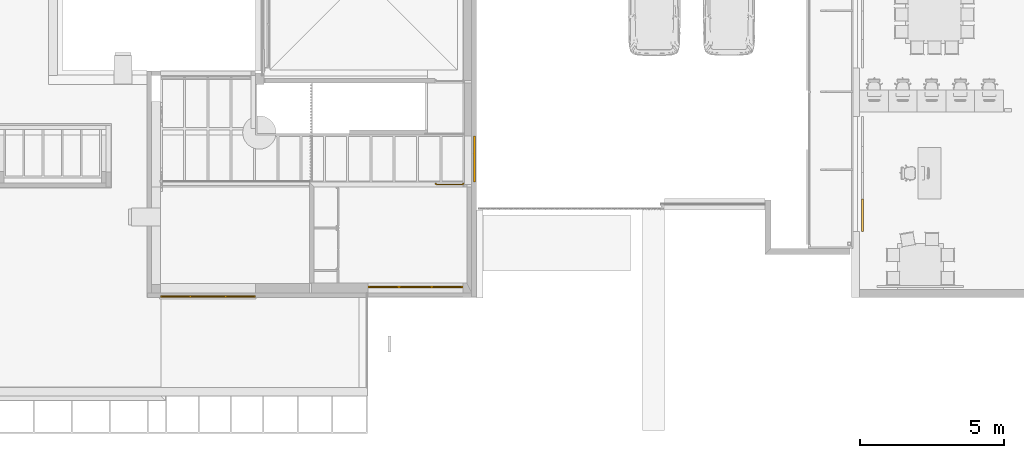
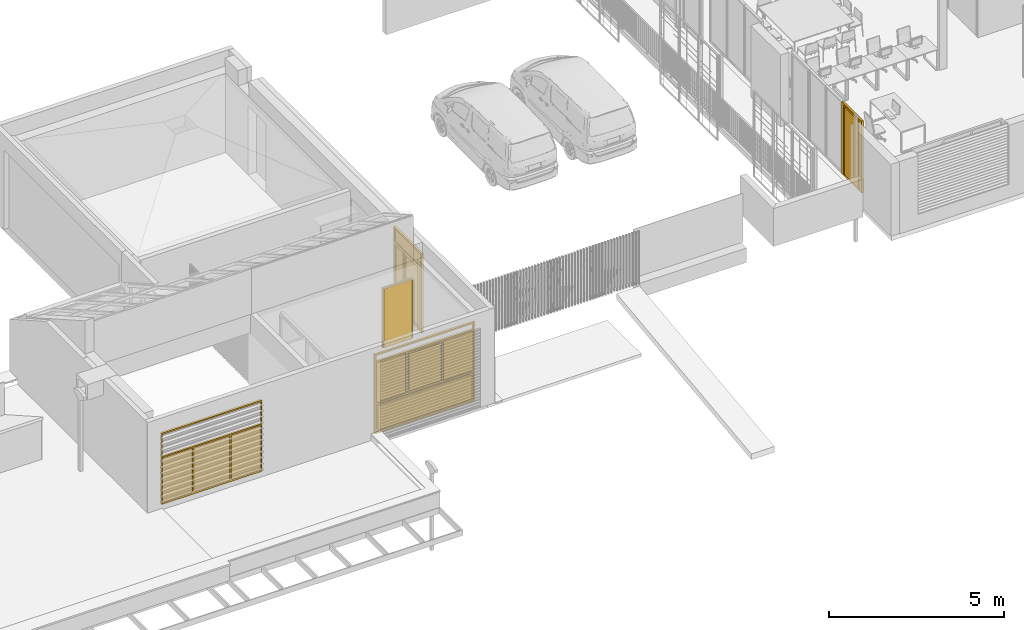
# One storey, part 31 of 51: 4 windows, 1 door.
"""IFC2X3 building model written with IfcOpenShell, lengths in metres."""

from ifc_helpers import new_model, entity, si_unit, converted_unit, derived_unit, direction, frame, origin, place, context, subcontext, project, spatial, faceted_brep, source, transform, mapped, material, type_object, type_shapes, element, save


model = new_model("IFC2X3")

# Units and contexts
model_context = context("Model", 3, precision=1e-05, world=origin(), true_north=direction((6.123031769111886e-17, 1.0)))
body_context = subcontext(model_context, "Body", "Model", "MODEL_VIEW")
ifc_project = project(units=[si_unit("LENGTHUNIT", "METRE"), si_unit("AREAUNIT", "SQUARE_METRE"), si_unit("VOLUMEUNIT", "CUBIC_METRE"), converted_unit("PLANEANGLEUNIT", "DEGREE", entity("IfcRatioMeasure", 0.017453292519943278), si_unit("PLANEANGLEUNIT", "RADIAN"), dimensions=[0, 0, 0, 0, 0, 0, 0]), si_unit("MASSUNIT", "GRAM", prefix="KILO"), derived_unit("MASSDENSITYUNIT", [(si_unit("MASSUNIT", "GRAM", prefix="KILO"), 1), (si_unit("LENGTHUNIT", "METRE"), -3)]), derived_unit("MOMENTOFINERTIAUNIT", [(si_unit("LENGTHUNIT", "METRE"), 4)]), si_unit("TIMEUNIT", "SECOND"), si_unit("FREQUENCYUNIT", "HERTZ"), si_unit("THERMODYNAMICTEMPERATUREUNIT", "DEGREE_CELSIUS"), derived_unit("THERMALTRANSMITTANCEUNIT", [(si_unit("MASSUNIT", "GRAM", prefix="KILO"), 1), (si_unit("THERMODYNAMICTEMPERATUREUNIT", "KELVIN"), -1), (si_unit("TIMEUNIT", "SECOND"), -3)]), derived_unit("THERMALCONDUCTANCEUNIT", [(si_unit("MASSUNIT", "GRAM", prefix="KILO"), 1), (si_unit("LENGTHUNIT", "METRE"), 1), (si_unit("THERMODYNAMICTEMPERATUREUNIT", "KELVIN"), -1), (si_unit("TIMEUNIT", "SECOND"), -3)]), derived_unit("VOLUMETRICFLOWRATEUNIT", [(si_unit("LENGTHUNIT", "METRE"), 3), (si_unit("TIMEUNIT", "SECOND"), -1)]), derived_unit("MASSFLOWRATEUNIT", [(si_unit("MASSUNIT", "GRAM", prefix="KILO"), 1), (si_unit("TIMEUNIT", "SECOND"), -1)]), derived_unit("ROTATIONALFREQUENCYUNIT", [(si_unit("TIMEUNIT", "SECOND"), -1)]), si_unit("ELECTRICCURRENTUNIT", "AMPERE"), si_unit("ELECTRICVOLTAGEUNIT", "VOLT"), si_unit("POWERUNIT", "WATT"), si_unit("FORCEUNIT", "NEWTON", prefix="KILO"), si_unit("ILLUMINANCEUNIT", "LUX"), si_unit("LUMINOUSFLUXUNIT", "LUMEN"), si_unit("LUMINOUSINTENSITYUNIT", "CANDELA"), derived_unit("USERDEFINED", [(si_unit("MASSUNIT", "GRAM", prefix="KILO"), -1), (si_unit("LENGTHUNIT", "METRE"), -2), (si_unit("TIMEUNIT", "SECOND"), 3), (si_unit("LUMINOUSFLUXUNIT", "LUMEN"), 1)]), derived_unit("USERDEFINED", [(si_unit("MASSUNIT", "GRAM", prefix="KILO"), 1), (si_unit("LENGTHUNIT", "METRE"), 3), (si_unit("TIMEUNIT", "SECOND"), -3), (si_unit("ELECTRICCURRENTUNIT", "AMPERE"), -2)]), derived_unit("USERDEFINED", [(si_unit("LENGTHUNIT", "METRE"), 2), (si_unit("TIMEUNIT", "SECOND"), -2)]), derived_unit("SOUNDPOWERUNIT", [(si_unit("MASSUNIT", "GRAM", prefix="KILO"), 1), (si_unit("LENGTHUNIT", "METRE"), 2), (si_unit("TIMEUNIT", "SECOND"), -3)]), derived_unit("SOUNDPRESSUREUNIT", [(si_unit("MASSUNIT", "GRAM", prefix="KILO"), 1), (si_unit("LENGTHUNIT", "METRE"), -1), (si_unit("TIMEUNIT", "SECOND"), -2)]), derived_unit("LINEARVELOCITYUNIT", [(si_unit("LENGTHUNIT", "METRE"), 1), (si_unit("TIMEUNIT", "SECOND"), -1)]), si_unit("PRESSUREUNIT", "PASCAL"), derived_unit("USERDEFINED", [(si_unit("LENGTHUNIT", "METRE"), -2), (si_unit("MASSUNIT", "GRAM", prefix="KILO"), 1), (si_unit("TIMEUNIT", "SECOND"), -2)]), derived_unit("LINEARFORCEUNIT", [(si_unit("MASSUNIT", "GRAM", prefix="KILO"), 1), (si_unit("LENGTHUNIT", "METRE"), 1), (si_unit("TIMEUNIT", "SECOND"), -2), (si_unit("LENGTHUNIT", "METRE"), -1)]), derived_unit("PLANARFORCEUNIT", [(si_unit("MASSUNIT", "GRAM", prefix="KILO"), 1), (si_unit("LENGTHUNIT", "METRE"), 1), (si_unit("TIMEUNIT", "SECOND"), -2), (si_unit("LENGTHUNIT", "METRE"), -2)]), derived_unit("SPECIFICHEATCAPACITYUNIT", [(si_unit("LENGTHUNIT", "METRE"), 2), (si_unit("TIMEUNIT", "SECOND"), -2), (si_unit("THERMODYNAMICTEMPERATUREUNIT", "KELVIN"), -1)]), derived_unit("VAPORPERMEABILITYUNIT", [(si_unit("TIMEUNIT", "SECOND"), 1), (si_unit("LENGTHUNIT", "METRE"), -1)]), derived_unit("DYNAMICVISCOSITYUNIT", [(si_unit("MASSUNIT", "GRAM", prefix="KILO"), 1), (si_unit("LENGTHUNIT", "METRE"), -1), (si_unit("TIMEUNIT", "SECOND"), -1)]), derived_unit("THERMALEXPANSIONCOEFFICIENTUNIT", [(si_unit("THERMODYNAMICTEMPERATUREUNIT", "KELVIN"), -1)])], contexts=[model_context])

# Site, building, storey
site_placement = place(None, origin())
site = spatial("IfcSite", under=ifc_project, at=site_placement, Name="Default", CompositionType="ELEMENT")
building_placement = place(site_placement, origin())
building = spatial("IfcBuilding", under=site, at=building_placement, CompositionType="ELEMENT")
storey_placement = place(building_placement, frame((0.0, 0.0, 3.06)))
storey = spatial("IfcBuildingStorey", under=building, at=storey_placement, Name="ÉTAGE", CompositionType="ELEMENT", Elevation=3.06)

# Windows
ifc_material_1 = material(Name="Transp. - Verre clair (rapide)")
window_style_1 = type_object("IfcWindowStyle", Name="Fen-007", ConstructionType="NOTDEFINED", OperationType="NOTDEFINED", ParameterTakesPrecedence=False, Sizeable=False, material=ifc_material_1)
shared_shape_1 = source(origin(), body_context, "Body", "Brep", [
    faceted_brep([(2.269999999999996, -0.41340000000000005, 1.06), (3.2499999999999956, -0.41340000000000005, 1.06), (3.2499999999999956, -0.34340000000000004, 1.06), (2.269999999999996, -0.34340000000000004, 1.06), (0.0, -0.41340000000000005, 0.0), (3.299999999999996, -0.41340000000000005, 0.0), (3.299999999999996, -0.41340000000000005, 2.76), (0.0, -0.41340000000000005, 2.76), (2.2199999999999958, -0.41340000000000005, 2.46), (2.2199999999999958, -0.41340000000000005, 1.06), (1.079999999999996, -0.41340000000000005, 1.06), (1.079999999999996, -0.41340000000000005, 2.46), (0.049999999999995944, -0.41340000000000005, 1.01), (3.2499999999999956, -0.41340000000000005, 1.01), (3.2499999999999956, -0.41340000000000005, 0.059999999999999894), (0.049999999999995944, -0.41340000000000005, 0.059999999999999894), (0.049999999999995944, -0.41340000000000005, 2.7099999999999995), (3.2499999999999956, -0.41340000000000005, 2.7099999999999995), (3.2499999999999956, -0.41340000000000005, 2.5099999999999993), (0.049999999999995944, -0.41340000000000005, 2.5099999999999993), (1.029999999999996, -0.41340000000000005, 1.06), (0.049999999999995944, -0.41340000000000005, 1.06), (0.049999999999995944, -0.41340000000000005, 2.46), (1.029999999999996, -0.41340000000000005, 2.46), (2.269999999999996, -0.41340000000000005, 2.46), (3.2499999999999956, -0.41340000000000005, 2.46), (3.2499999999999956, -0.34340000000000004, 2.46), (0.0, -0.34340000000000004, 0.0), (0.0, -0.34340000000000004, 2.76), (3.299999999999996, -0.34340000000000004, 2.76), (3.299999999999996, -0.34340000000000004, 0.0), (2.2199999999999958, -0.34340000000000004, 2.46), (1.079999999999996, -0.34340000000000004, 2.46), (1.079999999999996, -0.34340000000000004, 1.06), (2.2199999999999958, -0.34340000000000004, 1.06), (3.2499999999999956, -0.34340000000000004, 0.059999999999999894), (3.2499999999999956, -0.34340000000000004, 1.01), (0.049999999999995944, -0.34340000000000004, 1.01), (0.049999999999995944, -0.34340000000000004, 0.059999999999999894), (0.049999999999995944, -0.34340000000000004, 2.7099999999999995), (0.049999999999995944, -0.34340000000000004, 2.5099999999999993), (3.2499999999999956, -0.34340000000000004, 2.5099999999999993), (3.2499999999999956, -0.34340000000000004, 2.7099999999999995), (0.049999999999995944, -0.34340000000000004, 2.46), (0.049999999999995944, -0.34340000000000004, 1.06), (1.029999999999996, -0.34340000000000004, 1.06), (1.029999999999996, -0.34340000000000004, 2.46), (2.269999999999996, -0.34340000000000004, 2.46), (2.1699999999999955, -0.41340000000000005, 2.41), (2.1699999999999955, -0.41340000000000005, 1.1099999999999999), (1.1299999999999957, -0.41340000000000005, 1.1099999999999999), (1.1299999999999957, -0.41340000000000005, 2.41), (2.1699999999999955, -0.34340000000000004, 2.41), (2.1699999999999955, -0.34340000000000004, 1.1099999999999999), (1.1299999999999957, -0.34340000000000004, 1.1099999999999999), (1.1299999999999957, -0.34340000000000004, 2.41), (1.079999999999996, -0.37840000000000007, 2.46), (1.079999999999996, -0.37840000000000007, 1.06), (2.2199999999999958, -0.37840000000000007, 2.46), (2.2199999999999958, -0.37840000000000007, 1.06), (1.1299999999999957, -0.3834, 1.1099999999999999), (1.1299999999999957, -0.37340000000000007, 1.1099999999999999), (2.1699999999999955, -0.37340000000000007, 1.1099999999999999), (2.1699999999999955, -0.3834, 1.1099999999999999), (1.1299999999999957, -0.3834, 2.41), (1.1299999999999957, -0.37340000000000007, 2.41), (2.1699999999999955, -0.37340000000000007, 2.41), (2.1699999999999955, -0.3834, 2.41), (0.049999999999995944, -0.3834, 1.0601), (0.049999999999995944, -0.37340000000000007, 1.0601), (1.029999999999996, -0.37340000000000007, 1.0601), (1.029999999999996, -0.3834, 1.0601), (0.049999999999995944, -0.3834, 2.46), (0.049999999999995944, -0.37340000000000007, 2.46), (1.029999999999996, -0.37340000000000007, 2.46), (1.029999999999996, -0.3834, 2.46), (2.269999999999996, -0.3834, 1.0601), (2.269999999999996, -0.37340000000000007, 1.0601), (3.2499999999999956, -0.37340000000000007, 1.0601), (3.2499999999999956, -0.3834, 1.0601), (2.269999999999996, -0.3834, 2.46), (2.269999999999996, -0.37340000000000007, 2.46), (3.2499999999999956, -0.37340000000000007, 2.46), (3.2499999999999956, -0.3834, 2.46), (0.049999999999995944, -0.37840000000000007, 2.7099999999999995), (0.049999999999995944, -0.37840000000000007, 2.5099999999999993), (3.2499999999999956, -0.37840000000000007, 2.7099999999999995), (3.2499999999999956, -0.37840000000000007, 2.5099999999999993), (3.1999999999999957, -0.41340000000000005, 0.96), (3.1999999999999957, -0.41340000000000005, 0.11000000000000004), (0.09999999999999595, -0.41340000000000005, 0.11000000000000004), (0.09999999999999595, -0.41340000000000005, 0.96), (3.1999999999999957, -0.34340000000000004, 0.96), (3.1999999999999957, -0.34340000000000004, 0.11000000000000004), (0.09999999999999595, -0.34340000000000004, 0.11), (0.09999999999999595, -0.34340000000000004, 0.96), (0.049999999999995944, -0.37840000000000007, 1.01), (0.049999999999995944, -0.37840000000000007, 0.06000000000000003), (3.2499999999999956, -0.37840000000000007, 1.01), (3.2499999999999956, -0.37840000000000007, 0.06000000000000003), (0.09999999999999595, -0.3834, 0.11), (0.09999999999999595, -0.37340000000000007, 0.11), (3.1999999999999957, -0.37340000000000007, 0.11), (3.1999999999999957, -0.3834, 0.11), (0.09999999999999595, -0.3834, 0.96), (0.09999999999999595, -0.37340000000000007, 0.96), (3.1999999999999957, -0.37340000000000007, 0.96), (3.1999999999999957, -0.3834, 0.96)], [[[0, 1, 2, 3]], [[4, 5, 6, 7], [8, 9, 10, 11], [12, 13, 14, 15], [16, 17, 18, 19], [20, 21, 22, 23], [24, 25, 1, 0]], [[1, 25, 26, 2]], [[27, 28, 29, 30], [31, 32, 33, 34], [35, 36, 37, 38], [39, 40, 41, 42], [43, 44, 45, 46], [47, 3, 2, 26]], [[24, 0, 3, 47]], [[4, 27, 30, 5]], [[5, 30, 29, 6]], [[6, 29, 28, 7]], [[7, 28, 27, 4]], [[31, 34, 9, 8]], [[34, 33, 10, 9]], [[10, 33, 32, 11]], [[8, 11, 32, 31]], [[36, 13, 12, 37]], [[13, 36, 35, 14]], [[14, 35, 38, 15]], [[37, 12, 15, 38]], [[16, 39, 42, 17]], [[42, 41, 18, 17]], [[19, 18, 41, 40]], [[16, 19, 40, 39]], [[44, 21, 20, 45]], [[44, 43, 22, 21]], [[22, 43, 46, 23]], [[45, 20, 23, 46]], [[47, 26, 25, 24]], [[8, 11, 10, 9], [48, 49, 50, 51]], [[8, 31, 32, 11]], [[32, 33, 10, 11]], [[33, 34, 9, 10]], [[9, 34, 31, 8]], [[48, 52, 53, 49]], [[53, 54, 50, 49]], [[54, 55, 51, 50]], [[51, 55, 52, 48]], [[32, 31, 34, 33], [53, 52, 55, 54]], [[10, 11, 56, 57]], [[9, 8, 58, 59]], [[10, 9, 59, 57]], [[11, 8, 58, 56]], [[57, 56, 32, 33]], [[59, 58, 31, 34]], [[57, 59, 34, 33]], [[56, 58, 31, 32]], [[60, 61, 62, 63]], [[64, 65, 61, 60]], [[61, 65, 66, 62]], [[63, 62, 66, 67]], [[60, 63, 67, 64]], [[67, 66, 65, 64]], [[68, 69, 70, 71]], [[72, 73, 69, 68]], [[69, 73, 74, 70]], [[71, 70, 74, 75]], [[68, 71, 75, 72]], [[75, 74, 73, 72]], [[76, 77, 78, 79]], [[80, 81, 77, 76]], [[77, 81, 82, 78]], [[79, 78, 82, 83]], [[76, 79, 83, 80]], [[83, 82, 81, 80]], [[17, 16, 19, 18]], [[17, 42, 39, 16]], [[39, 40, 19, 16]], [[40, 41, 18, 19]], [[18, 41, 42, 17]], [[39, 42, 41, 40]], [[19, 16, 84, 85]], [[18, 17, 86, 87]], [[19, 18, 87, 85]], [[16, 17, 86, 84]], [[13, 12, 15, 14], [88, 89, 90, 91]], [[13, 36, 37, 12]], [[37, 38, 15, 12]], [[38, 35, 14, 15]], [[14, 35, 36, 13]], [[88, 92, 93, 89]], [[93, 94, 90, 89]], [[94, 95, 91, 90]], [[91, 95, 92, 88]], [[37, 36, 35, 38], [93, 92, 95, 94]], [[15, 12, 96, 97]], [[14, 13, 98, 99]], [[15, 14, 99, 97]], [[12, 13, 98, 96]], [[97, 96, 37, 38]], [[99, 98, 36, 35]], [[97, 99, 35, 38]], [[96, 98, 36, 37]], [[100, 101, 102, 103]], [[104, 105, 101, 100]], [[101, 105, 106, 102]], [[103, 102, 106, 107]], [[100, 103, 107, 104]], [[107, 106, 105, 104]]]),
])
type_shapes(window_style_1, [shared_shape_1])
window_1_placement = place(storey_placement, frame((127.89075227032, 7.5738094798, 0.0), z_axis=(0.0, 0.0, 1.0), x_axis=(-1.0, 0.0, 0.0)))
element("IfcWindow", 1, at=window_1_placement, inside=storey, type_object=window_style_1, material=ifc_material_1, Name="Fen-007 242167:Fen-007 242167", ObjectType="Fen-007 242167:Fen-007 242167", OverallHeight=2.76, OverallWidth=3.3000000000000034, context=body_context, shape_type="MappedRepresentation", body=[
    mapped(shared_shape_1, transform((0.0, 0.0, 0.0), scale=1.0)),
])
ifc_material_2 = material(Name="Peinture - Anthracite")
window_style_2 = type_object("IfcWindowStyle", Name="Fen-007", ConstructionType="NOTDEFINED", OperationType="NOTDEFINED", ParameterTakesPrecedence=False, Sizeable=False, material=ifc_material_2)
shared_shape_2 = source(origin(), body_context, "Body", "Brep", [
    faceted_brep([(2.289999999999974, 0.0032999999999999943, 0.06), (3.2699999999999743, 0.0032999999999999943, 0.06), (3.2699999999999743, 0.07329999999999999, 0.06), (2.289999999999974, 0.07329999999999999, 0.06), (0.0, 0.0032999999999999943, 2.48), (0.0, 0.0032999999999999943, 0.0), (3.2999999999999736, 0.0032999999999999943, 0.0), (3.2999999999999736, 0.0032999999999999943, 2.48), (2.239999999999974, 0.0032999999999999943, 1.61), (2.239999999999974, 0.0032999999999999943, 0.06000000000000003), (1.059999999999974, 0.0032999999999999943, 0.06000000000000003), (1.059999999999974, 0.0032999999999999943, 1.61), (0.02999999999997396, 0.0032999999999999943, 2.43), (3.2699999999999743, 0.0032999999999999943, 2.43), (3.2699999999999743, 0.0032999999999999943, 1.6599999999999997), (0.02999999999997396, 0.0032999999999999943, 1.6599999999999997), (1.009999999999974, 0.0032999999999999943, 0.06000000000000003), (0.02999999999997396, 0.0032999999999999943, 0.06000000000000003), (0.02999999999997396, 0.0032999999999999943, 1.61), (1.009999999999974, 0.0032999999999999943, 1.61), (2.289999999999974, 0.0032999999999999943, 1.61), (3.2699999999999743, 0.0032999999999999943, 1.61), (3.2699999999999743, 0.07329999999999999, 1.61), (3.2999999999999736, 0.07329999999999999, 0.0), (0.0, 0.07329999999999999, 0.0), (0.0, 0.07329999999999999, 2.48), (3.2999999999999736, 0.07329999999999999, 2.48), (2.239999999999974, 0.07329999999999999, 1.61), (1.059999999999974, 0.07329999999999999, 1.61), (1.059999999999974, 0.07329999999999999, 0.06000000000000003), (2.239999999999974, 0.07329999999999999, 0.06000000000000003), (0.02999999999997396, 0.07329999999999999, 2.43), (0.02999999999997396, 0.07329999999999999, 1.6599999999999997), (3.2699999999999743, 0.07329999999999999, 1.6599999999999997), (3.2699999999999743, 0.07329999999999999, 2.43), (0.02999999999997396, 0.07329999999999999, 1.61), (0.02999999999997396, 0.07329999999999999, 0.06000000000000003), (1.009999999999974, 0.07329999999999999, 0.06000000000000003), (1.009999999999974, 0.07329999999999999, 1.61), (2.289999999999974, 0.07329999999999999, 1.61), (1.059999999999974, 0.033299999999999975, 0.0601), (1.059999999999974, 0.043300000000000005, 0.0601), (2.239999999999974, 0.043300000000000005, 0.0601), (2.239999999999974, 0.033299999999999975, 0.0601), (1.059999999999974, 0.033299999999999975, 1.61), (1.059999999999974, 0.043300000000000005, 1.61), (2.239999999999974, 0.043300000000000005, 1.61), (2.239999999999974, 0.033299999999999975, 1.61), (0.02999999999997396, 0.033299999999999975, 0.0601), (0.02999999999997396, 0.043300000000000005, 0.0601), (1.009999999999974, 0.043300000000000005, 0.0601), (1.009999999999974, 0.033299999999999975, 0.0601), (0.02999999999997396, 0.033299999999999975, 1.61), (0.02999999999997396, 0.043300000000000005, 1.61), (1.009999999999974, 0.043300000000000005, 1.61), (1.009999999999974, 0.033299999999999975, 1.61), (2.289999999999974, 0.033299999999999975, 0.0601), (2.289999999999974, 0.043300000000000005, 0.0601), (3.2699999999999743, 0.043300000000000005, 0.0601), (3.2699999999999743, 0.033299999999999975, 0.0601), (2.289999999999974, 0.033299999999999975, 1.61), (2.289999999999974, 0.043300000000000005, 1.61), (3.2699999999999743, 0.043300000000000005, 1.61), (3.2699999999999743, 0.033299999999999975, 1.61), (0.02999999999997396, 0.03830000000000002, 2.43), (0.02999999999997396, 0.03830000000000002, 1.6599999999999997), (3.2699999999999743, 0.03830000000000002, 2.43), (3.2699999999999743, 0.03830000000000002, 1.6599999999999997)], [[[0, 1, 2, 3]], [[4, 5, 6, 7], [8, 9, 10, 11], [12, 13, 14, 15], [16, 17, 18, 19], [20, 21, 1, 0]], [[1, 21, 22, 2]], [[23, 24, 25, 26], [27, 28, 29, 30], [31, 32, 33, 34], [35, 36, 37, 38], [39, 3, 2, 22]], [[20, 0, 3, 39]], [[5, 4, 25, 24]], [[6, 5, 24, 23]], [[7, 6, 23, 26]], [[4, 7, 26, 25]], [[27, 30, 9, 8]], [[30, 29, 10, 9]], [[10, 29, 28, 11]], [[8, 11, 28, 27]], [[13, 12, 31, 34]], [[34, 33, 14, 13]], [[15, 14, 33, 32]], [[12, 15, 32, 31]], [[36, 17, 16, 37]], [[36, 35, 18, 17]], [[18, 35, 38, 19]], [[37, 16, 19, 38]], [[39, 22, 21, 20]], [[40, 41, 42, 43]], [[44, 45, 41, 40]], [[41, 45, 46, 42]], [[43, 42, 46, 47]], [[40, 43, 47, 44]], [[47, 46, 45, 44]], [[48, 49, 50, 51]], [[52, 53, 49, 48]], [[49, 53, 54, 50]], [[51, 50, 54, 55]], [[48, 51, 55, 52]], [[55, 54, 53, 52]], [[56, 57, 58, 59]], [[60, 61, 57, 56]], [[57, 61, 62, 58]], [[59, 58, 62, 63]], [[56, 59, 63, 60]], [[63, 62, 61, 60]], [[13, 12, 15, 14]], [[13, 34, 31, 12]], [[31, 32, 15, 12]], [[32, 33, 14, 15]], [[14, 33, 34, 13]], [[31, 34, 33, 32]], [[15, 12, 64, 65]], [[14, 13, 66, 67]], [[15, 14, 67, 65]], [[12, 13, 66, 64]]]),
])
type_shapes(window_style_2, [shared_shape_2])
window_2_placement = place(storey_placement, frame((117.38075228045, 7.578909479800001, 0.2799999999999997)))
element("IfcWindow", 2, at=window_2_placement, inside=storey, type_object=window_style_2, material=ifc_material_2, Name="Fen-007 243032:Fen-007 243032", ObjectType="Fen-007 243032:Fen-007 243032", OverallHeight=2.48, OverallWidth=3.300000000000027, context=body_context, shape_type="MappedRepresentation", body=[
    mapped(shared_shape_2, transform((0.0, 0.0, 0.0), scale=1.0)),
])
window_style_3 = type_object("IfcWindowStyle", Name="Fen-004", ConstructionType="NOTDEFINED", OperationType="NOTDEFINED", ParameterTakesPrecedence=False, Sizeable=False, material=ifc_material_2)
shared_shape_3 = source(origin(), body_context, "Body", "Brep", [
    faceted_brep([(0.0, 0.07260000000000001, 2.76), (1.6, 0.07260000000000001, 2.76), (1.6, 0.07260000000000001, 0.0), (0.0, 0.07260000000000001, 0.0), (1.5499999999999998, 0.07260000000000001, 2.21), (0.05, 0.07260000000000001, 2.21), (0.05, 0.07260000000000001, 0.059999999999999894), (1.5499999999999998, 0.07260000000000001, 0.059999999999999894), (1.5499999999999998, 0.07260000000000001, 2.2599999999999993), (1.5499999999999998, 0.07260000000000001, 2.7099999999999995), (0.05, 0.07260000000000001, 2.7099999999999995), (0.05, 0.07260000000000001, 2.2599999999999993), (0.0, 0.002600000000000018, 2.76), (1.6, 0.002600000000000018, 2.76), (1.6, 0.002600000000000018, 0.0), (0.0, 0.002600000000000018, 0.0), (1.5499999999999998, 0.002600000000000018, 2.21), (0.05, 0.002600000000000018, 2.21), (0.05, 0.002600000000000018, 0.06000000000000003), (1.5499999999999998, 0.002600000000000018, 0.06), (1.5499999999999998, 0.002600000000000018, 2.2599999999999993), (1.5499999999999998, 0.002600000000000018, 2.7099999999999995), (0.05, 0.002600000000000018, 2.7099999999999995), (0.05, 0.002600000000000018, 2.2599999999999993), (1.0001, 0.002600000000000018, 2.21), (1.0001, 0.002600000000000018, 0.06000000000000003), (1.4999999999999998, 0.002600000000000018, 2.16), (1.4999999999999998, 0.002600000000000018, 0.11000000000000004), (1.05, 0.002600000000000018, 0.11000000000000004), (1.05, 0.002600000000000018, 2.16), (1.0001, 0.07260000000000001, 2.21), (1.0001, 0.07260000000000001, 0.06000000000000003), (1.4999999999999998, 0.07260000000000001, 2.16), (1.4999999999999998, 0.07260000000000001, 0.11000000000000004), (1.05, 0.07260000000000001, 0.11), (1.05, 0.07260000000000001, 2.16), (1.5499999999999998, 0.03760000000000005, 2.21), (1.5499999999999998, 0.03760000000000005, 0.06000000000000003), (1.0001, 0.03760000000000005, 0.06), (1.0001, 0.03760000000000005, 2.21), (1.05, 0.0326, 0.11), (1.05, 0.04260000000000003, 0.11), (1.4999999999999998, 0.04260000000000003, 0.11), (1.4999999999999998, 0.0326, 0.11), (1.05, 0.0326, 2.16), (1.05, 0.04260000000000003, 2.16), (1.4999999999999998, 0.04260000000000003, 2.16), (1.4999999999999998, 0.0326, 2.16), (1.0125, 0.07270000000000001, 0.06300000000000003), (1.0125, 0.09260000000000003, 0.06300000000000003), (1.0125, 0.09260000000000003, 2.207), (1.0125, 0.07270000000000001, 2.207), (0.9874999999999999, 0.07270000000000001, 0.06299999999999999), (0.9874999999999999, 0.09260000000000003, 0.06299999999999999), (0.9874999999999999, 0.0926, 2.207), (0.9874999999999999, 0.07270000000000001, 2.207), (1.0, 0.002600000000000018, 0.06000000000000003), (1.0, 0.002600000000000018, 2.21), (0.1, 0.002600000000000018, 2.16), (0.95, 0.002600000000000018, 2.16), (0.95, 0.002600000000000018, 0.11000000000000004), (0.1, 0.002600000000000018, 0.11000000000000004), (1.0, 0.07260000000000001, 0.06), (1.0, 0.07260000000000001, 2.21), (0.1, 0.07260000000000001, 2.16), (0.95, 0.07260000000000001, 2.16), (0.95, 0.07260000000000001, 0.11000000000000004), (0.1, 0.07260000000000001, 0.11), (1.0, 0.03760000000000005, 0.06000000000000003), (1.0, 0.03760000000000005, 2.21), (0.05, 0.03760000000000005, 0.06000000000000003), (0.05, 0.03760000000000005, 2.21), (0.95, 0.0326, 0.11), (0.1, 0.0326, 0.11), (0.1, 0.04259999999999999, 0.11), (0.95, 0.04259999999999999, 0.11), (0.95, 0.03260000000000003, 2.16), (0.1, 0.03260000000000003, 2.16), (0.1, 0.04259999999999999, 2.16), (0.95, 0.04260000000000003, 2.16), (0.05, 0.0326, 2.2601), (0.05, 0.04260000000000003, 2.2601), (1.5499999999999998, 0.04260000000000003, 2.2601), (1.5499999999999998, 0.0326, 2.2601), (0.05, 0.0326, 2.7099999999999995), (0.05, 0.04260000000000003, 2.7099999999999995), (1.5499999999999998, 0.04260000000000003, 2.7099999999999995), (1.5499999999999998, 0.0326, 2.7099999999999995)], [[[0, 1, 2, 3], [4, 5, 6, 7], [8, 9, 10, 11]], [[1, 0, 12, 13]], [[2, 1, 13, 14]], [[3, 2, 14, 15]], [[0, 3, 15, 12]], [[16, 17, 5, 4]], [[17, 18, 6, 5]], [[7, 6, 18, 19]], [[4, 7, 19, 16]], [[20, 21, 9, 8]], [[10, 9, 21, 22]], [[11, 10, 22, 23]], [[8, 11, 23, 20]], [[14, 13, 12, 15], [16, 19, 18, 17], [20, 23, 22, 21]], [[16, 24, 25, 19], [26, 27, 28, 29]], [[16, 4, 30, 24]], [[25, 24, 30, 31]], [[25, 31, 7, 19]], [[19, 7, 4, 16]], [[26, 32, 33, 27]], [[33, 34, 28, 27]], [[34, 35, 29, 28]], [[29, 35, 32, 26]], [[31, 30, 4, 7], [33, 32, 35, 34]], [[19, 16, 36, 37]], [[38, 25, 19, 37]], [[39, 24, 16, 36]], [[37, 36, 4, 7]], [[31, 38, 37, 7]], [[30, 39, 36, 4]], [[40, 41, 42, 43]], [[44, 45, 41, 40]], [[41, 45, 46, 42]], [[43, 42, 46, 47]], [[40, 43, 47, 44]], [[47, 46, 45, 44]], [[48, 49, 50, 51]], [[48, 52, 53, 49]], [[49, 53, 54, 50]], [[51, 50, 54, 55]], [[52, 48, 51, 55]], [[53, 52, 55, 54]], [[17, 18, 56, 57], [58, 59, 60, 61]], [[18, 17, 5, 6]], [[62, 56, 18, 6]], [[63, 57, 56, 62]], [[17, 57, 63, 5]], [[59, 58, 64, 65]], [[66, 60, 59, 65]], [[67, 61, 60, 66]], [[58, 61, 67, 64]], [[63, 62, 6, 5], [67, 66, 65, 64]], [[56, 68, 69, 57]], [[18, 70, 71, 17]], [[56, 68, 70, 18]], [[57, 69, 71, 17]], [[68, 62, 63, 69]], [[70, 6, 5, 71]], [[68, 62, 6, 70]], [[69, 63, 5, 71]], [[72, 73, 74, 75]], [[72, 76, 77, 73]], [[73, 77, 78, 74]], [[75, 74, 78, 79]], [[76, 72, 75, 79]], [[77, 76, 79, 78]], [[80, 81, 82, 83]], [[84, 85, 81, 80]], [[81, 85, 86, 82]], [[83, 82, 86, 87]], [[80, 83, 87, 84]], [[87, 86, 85, 84]]]),
])
type_shapes(window_style_3, [shared_shape_3])
window_3_placement = place(storey_placement, frame((128.33335227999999, 11.607209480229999, 0.0), z_axis=(0.0, 0.0, 1.0), x_axis=(0.0, 1.0, 0.0)))
element("IfcWindow", 3, at=window_3_placement, inside=storey, type_object=window_style_3, material=ifc_material_2, Name="Fen-004 244126:Fen-004 244126", ObjectType="Fen-004 244126:Fen-004 244126", OverallHeight=2.76, OverallWidth=1.6, context=body_context, shape_type="MappedRepresentation", body=[
    mapped(shared_shape_3, transform((0.0, 0.0, 0.0), scale=1.0)),
])

# Door
ifc_material_3 = material(Name="Peinture - Gris clair")
door_style = type_object("IfcDoorStyle", Name="Por-003", ConstructionType="NOTDEFINED", OperationType="SINGLE_SWING_LEFT", ParameterTakesPrecedence=False, Sizeable=False, material=ifc_material_3)
shared_shape_4 = source(origin(), body_context, "Body", "Brep", [
    faceted_brep([(0.0, 0.16319999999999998, 0.0), (0.0, 0.16319999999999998, 2.09), (1.0, 0.16319999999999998, 2.09), (1.0, 0.16319999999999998, 0.0), (0.965000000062, 0.16319999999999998, 0.0), (0.965000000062, 0.16319999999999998, 2.055), (0.03499999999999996, 0.16319999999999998, 2.055), (0.03499999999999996, 0.16319999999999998, 0.0), (0.0, 0.11319999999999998, 0.0), (0.0, 0.11319999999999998, 2.09), (1.0, 0.11319999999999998, 2.09), (1.0, 0.11319999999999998, 0.0), (0.9500000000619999, 0.11319999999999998, 0.0), (0.9500000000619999, 0.14819999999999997, 0.0), (0.965000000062, 0.14819999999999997, 0.0), (0.965000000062, 0.14819999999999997, 2.055), (0.03499999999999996, 0.14819999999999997, 2.055), (0.03499999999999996, 0.14819999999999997, 0.0), (0.05, 0.14819999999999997, 0.0), (0.05, 0.11319999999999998, 0.0), (0.9500000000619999, 0.11319999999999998, 2.04), (0.05, 0.11319999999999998, 2.04), (0.9500000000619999, 0.14819999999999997, 2.04), (0.05, 0.14819999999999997, 2.04), (0.03499999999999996, 0.18819999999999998, 0.0), (0.965000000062, 0.18819999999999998, 0.0), (0.03499999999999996, 0.18819999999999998, 2.055), (0.965000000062, 0.18819999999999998, 2.055)], [[[0, 1, 2, 3, 4, 5, 6, 7]], [[8, 9, 1, 0]], [[9, 10, 2, 1]], [[10, 11, 3, 2]], [[3, 11, 12, 13, 14, 4]], [[5, 4, 14, 15]], [[6, 5, 15, 16]], [[7, 6, 16, 17]], [[0, 7, 17, 18, 19, 8]], [[19, 8, 9, 10, 11, 12, 20, 21]], [[22, 13, 12, 20]], [[17, 16, 15, 14, 13, 22, 23, 18]], [[18, 23, 21, 19]], [[23, 22, 20, 21]], [[24, 25, 14, 17]], [[24, 26, 27, 25]], [[25, 27, 15, 14]], [[17, 14, 15, 16]], [[26, 24, 17, 16]], [[27, 26, 16, 15]]]),
])
type_shapes(door_style, [shared_shape_4])
door_placement = place(storey_placement, frame((127.925752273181, 11.685409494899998, 0.0), z_axis=(0.0, 0.0, 1.0), x_axis=(-1.0, 0.0, 0.0)))
element("IfcDoor", 4, at=door_placement, inside=storey, type_object=door_style, material=ifc_material_3, Name="Por-003 11722:Por-003 11722", ObjectType="Por-003 11722:Por-003 11722", OverallHeight=2.09, OverallWidth=1.0000000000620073, context=body_context, shape_type="MappedRepresentation", body=[
    mapped(shared_shape_4, transform((0.0, 0.0, 0.0), scale=1.0)),
])

# Window
window_style_4 = type_object("IfcWindowStyle", Name="Fen-004", ConstructionType="NOTDEFINED", OperationType="NOTDEFINED", ParameterTakesPrecedence=False, Sizeable=False, material=ifc_material_2)
shared_shape_5 = source(origin(), body_context, "Body", "Brep", [
    faceted_brep([(1.1299999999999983, -0.5628, 0.0), (0.0, -0.5628, 0.0), (0.0, -0.49279999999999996, 0.0), (1.1299999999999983, -0.49279999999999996, 0.0), (1.1299999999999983, -0.5628, 2.499999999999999), (0.0, -0.5628, 2.499999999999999), (1.0099999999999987, -0.5628, 0.0), (0.11999999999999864, -0.5628, 0.0), (0.11999999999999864, -0.5628, 2.4499999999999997), (1.0099999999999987, -0.5628, 2.4499999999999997), (0.0, -0.49279999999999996, 2.499999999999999), (1.1299999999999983, -0.49279999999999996, 2.499999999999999), (1.0099999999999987, -0.49279999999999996, 0.0), (1.0099999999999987, -0.49279999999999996, 2.4499999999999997), (0.11999999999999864, -0.49279999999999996, 2.4499999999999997), (0.11999999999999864, -0.49279999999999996, 0.0), (0.16999999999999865, -0.5628, 2.399999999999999), (0.9599999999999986, -0.5628, 2.399999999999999), (0.9599999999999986, -0.5628, 0.049999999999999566), (0.16999999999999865, -0.5628, 0.049999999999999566), (0.16999999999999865, -0.49279999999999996, 2.399999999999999), (0.9599999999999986, -0.49279999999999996, 2.399999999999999), (0.9599999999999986, -0.49279999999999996, 0.049999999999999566), (0.16999999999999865, -0.49279999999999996, 0.049999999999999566), (1.0099999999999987, -0.5277999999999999, 0.0), (1.0099999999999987, -0.5277999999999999, 2.4499999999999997), (0.11999999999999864, -0.5277999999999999, 0.0), (0.11999999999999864, -0.5277999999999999, 2.4499999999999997), (0.9599999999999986, -0.5328, 0.049999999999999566), (0.16999999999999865, -0.5328, 0.049999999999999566), (0.16999999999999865, -0.5228, 0.049999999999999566), (0.9599999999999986, -0.5228, 0.049999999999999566), (0.9599999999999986, -0.5328, 2.399999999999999), (0.16999999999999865, -0.5328, 2.399999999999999), (0.16999999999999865, -0.5228, 2.399999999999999), (0.9599999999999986, -0.5228, 2.399999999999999)], [[[0, 1, 2, 3]], [[0, 4, 5, 1], [6, 7, 8, 9]], [[1, 5, 10, 2]], [[3, 2, 10, 11], [12, 13, 14, 15]], [[4, 0, 3, 11]], [[5, 4, 11, 10]], [[7, 6, 12, 15]], [[8, 7, 15, 14]], [[9, 8, 14, 13]], [[6, 9, 13, 12]], [[8, 7, 6, 9], [16, 17, 18, 19]], [[7, 8, 14, 15]], [[12, 6, 7, 15]], [[13, 9, 6, 12]], [[8, 9, 13, 14]], [[17, 16, 20, 21]], [[22, 18, 17, 21]], [[23, 19, 18, 22]], [[16, 19, 23, 20]], [[13, 12, 15, 14], [23, 22, 21, 20]], [[6, 24, 25, 9]], [[7, 26, 27, 8]], [[6, 24, 26, 7]], [[9, 25, 27, 8]], [[24, 12, 13, 25]], [[26, 15, 14, 27]], [[24, 12, 15, 26]], [[25, 13, 14, 27]], [[28, 29, 30, 31]], [[28, 32, 33, 29]], [[29, 33, 34, 30]], [[31, 30, 34, 35]], [[32, 28, 31, 35]], [[33, 32, 35, 34]]]),
])
type_shapes(window_style_4, [shared_shape_5])
window_4_placement = place(storey_placement, frame((141.25795228, 9.8772095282, 1.2099999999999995), z_axis=(0.0, 0.0, 1.0), x_axis=(0.0, 1.0, 0.0)))
element("IfcWindow", 5, at=window_4_placement, inside=storey, type_object=window_style_4, material=ifc_material_2, Name="Fen-004 260945:Fen-004 260945", ObjectType="Fen-004 260945:Fen-004 260945", OverallHeight=2.5, OverallWidth=1.1300000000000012, context=body_context, shape_type="MappedRepresentation", body=[
    mapped(shared_shape_5, transform((0.0, 0.0, 0.0), scale=1.0)),
])

save(model, "model.ifc")
